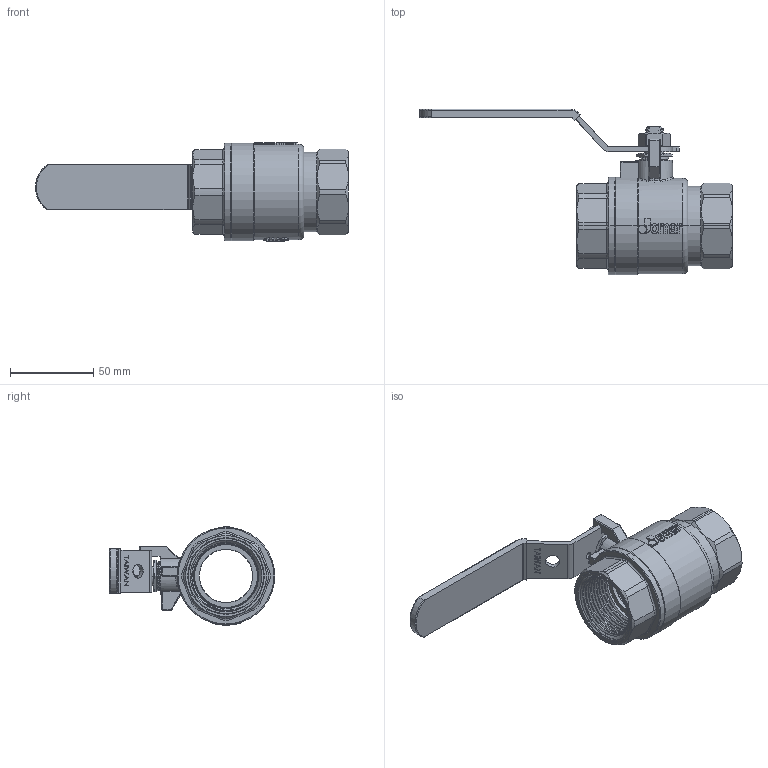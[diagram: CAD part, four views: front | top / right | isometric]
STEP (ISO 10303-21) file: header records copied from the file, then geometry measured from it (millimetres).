
FILE_DESCRIPTION (( 'STEP AP203' ), '1' );
FILE_NAME ('ABL726-µL±¾Âê-1.25''''JOMAR²y»ÖÅé²Õ¦X.STEP', '2026-04-13T01:45:31', ( '' ), ( '' ), 'SwSTEP 2.0', 'SolidWorks 2018', '' );
FILE_SCHEMA (( 'CONFIG_CONTROL_DESIGN' ));
Length unit declared in the file: millimetre
Products named in the file (13): RBL706; EBL706A; EBL706; BBL726-1.25''''JOMAR瞴恢砰-Τ筣础肪礚LF; DN32-黃色膠套-T-200CSS; GBL604; EBL306; TBL267A (TBL106); NGV109; ABL726-無掛鎖-1.25''''JOMAR球閥體組合; BBL726A-1.25''''JOMAR球閥八角頭帽蓋-有鉛插溝; CBL235-1.25''''通用把手; DN32-CBL726-把手組合-無掛鎖(黃色T膠套)
Assembly tree (13 placements, depth 3):
  ABL726-無掛鎖-1.25''''JOMAR球閥體組合
    BBL726-1.25''''JOMAR瞴恢砰-Τ筣础肪礚LF
    TBL267A (TBL106)
    EBL306  x2
    EBL706A
    EBL706
    NGV109
    RBL706
    GBL604
    BBL726A-1.25''''JOMAR球閥八角頭帽蓋-有鉛插溝
    DN32-CBL726-把手組合-無掛鎖(黃色T膠套)
      CBL235-1.25''''通用把手
      DN32-黃色膠套-T-200CSS
Bounding box: 188 x 99.36 x 59 mm (x, y, z)
Volume: 133958 mm3; surface area: 84771.6 mm2
Topology: 12 solids, 12 shells, 1521 faces, 4026 edges, 2635 vertices
Faces by surface type: plane 612, bspline 471, cylinder 260, cone 137, torus 27, sphere 14
Entity records: 92231 total; most frequent: CARTESIAN_POINT 57423, ORIENTED_EDGE 7976, DIRECTION 5175, EDGE_CURVE 3988, VERTEX_POINT 2615, LINE 2021, VECTOR 2021, EDGE_LOOP 1647
